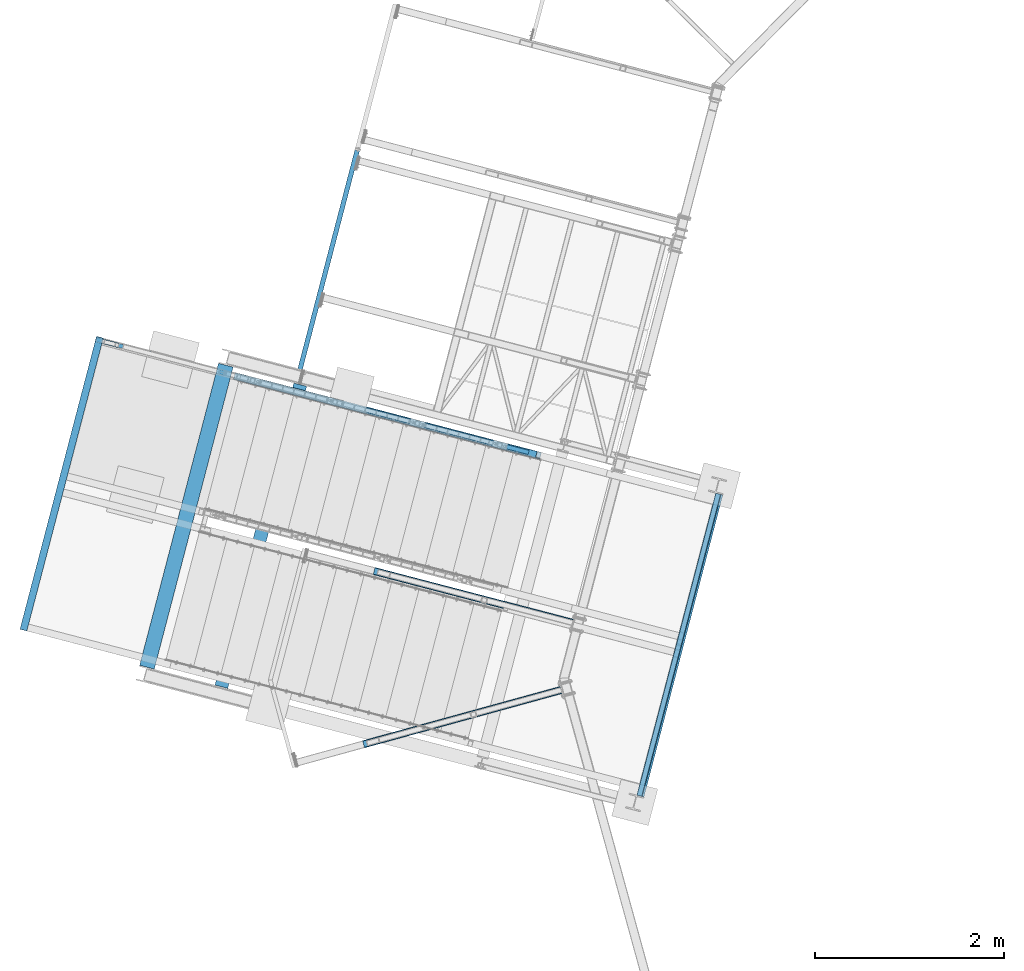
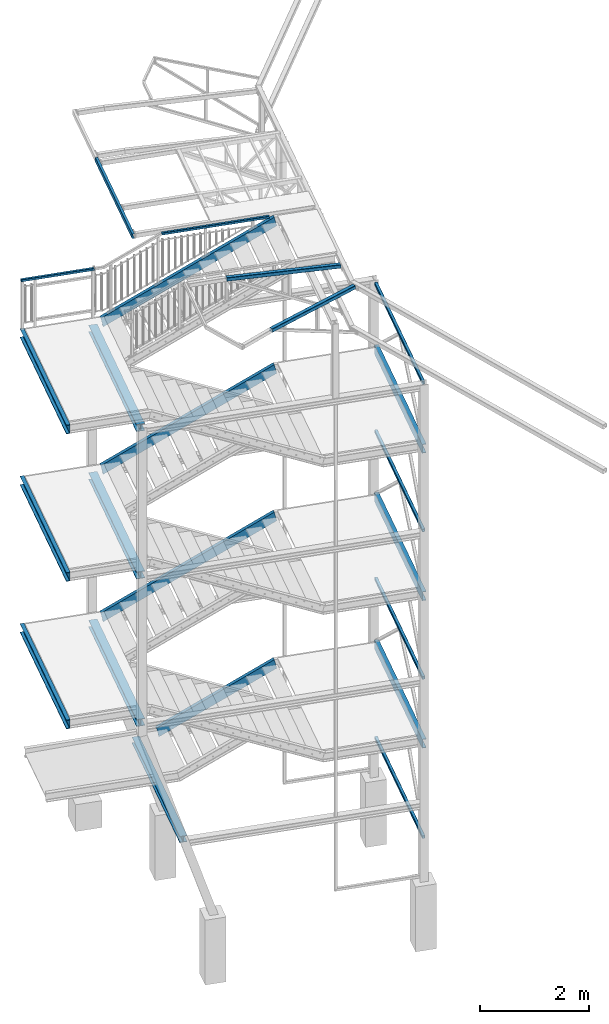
# One storey, part 12 of 169: 19 beams, 4 members, 23 elements without a shape of their own.
"""IFC2X3 building model written with IfcOpenShell, lengths in millimetres."""

from ifc_helpers import new_model, si_unit, frame, origin_with_axes, origin_2d_with_axis, place, context, subcontext, project, spatial, hollow_rectangle, i_section, u_section, extrude, clip, halfspace, material, type_object, element, aggregate, save


model = new_model("IFC2X3")

# Units and contexts
model_context = context("Model", 3, precision=1e-05, world=origin_with_axes())
body_context = subcontext(model_context, "Body", "Model", "MODEL_VIEW")
ifc_project = project(units=[si_unit("LENGTHUNIT", "METRE", prefix="MILLI"), si_unit("AREAUNIT", "SQUARE_METRE"), si_unit("VOLUMEUNIT", "CUBIC_METRE"), si_unit("MASSUNIT", "GRAM", prefix="KILO"), si_unit("TIMEUNIT", "SECOND"), si_unit("PLANEANGLEUNIT", "RADIAN"), si_unit("SOLIDANGLEUNIT", "STERADIAN"), si_unit("THERMODYNAMICTEMPERATUREUNIT", "DEGREE_CELSIUS"), si_unit("LUMINOUSINTENSITYUNIT", "LUMEN")], contexts=[model_context])

# Site, building, storey
site_placement = place(None, origin_with_axes())
site = spatial("IfcSite", under=ifc_project, at=site_placement, Name="Undefined", CompositionType="ELEMENT")
building_placement = place(site_placement, origin_with_axes())
building = spatial("IfcBuilding", under=site, at=building_placement, Name="Undefined", CompositionType="ELEMENT")
storey_placement = place(building_placement, origin_with_axes())
storey = spatial("IfcBuildingStorey", under=building, at=storey_placement, Name="Undefined", CompositionType="ELEMENT", Elevation=0.0)

# Assembly, beam
assembly_1_placement = place(storey_placement, origin_with_axes())
assembly_1 = element("IfcElementAssembly", 1, at=assembly_1_placement, inside=storey, Name="Steel Assembly", AssemblyPlace="NOTDEFINED", PredefinedType="RIGID_FRAME")
ifc_material = material(Name="STEEL/S235")
beam_type_1 = type_object("IfcBeamType", Name="C100*50*3", PredefinedType="NOTDEFINED")
beam_1_placement = place(assembly_1_placement, frame((-26311.6106474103, 11212.2699357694, 13975.3759246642), z_axis=(8.00909999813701e-05, -0.000162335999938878, -0.999999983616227), x_axis=(-0.252628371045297, -0.967563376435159, 0.000136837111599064)))
beam_1 = element("IfcBeam", 2, at=beam_1_placement, type_object=beam_type_1, material=ifc_material, Name="BEAM", ObjectType="C100*50*3", context=body_context, shape_type="Clipping", body=[
    clip(extrude(u_section(Depth=100.0, FlangeWidth=50.0, WebThickness=3.0, FlangeThickness=3.0, FilletRadius=4.5, at=origin_2d_with_axis()), frame((2550.00000000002, 7.97273409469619e-14, 1.81892028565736e-12), z_axis=(-1.0, -3.46944695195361e-18, -1.38777878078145e-17), x_axis=(1.73472347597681e-18, -1.0, 0.0)), (0.0, 0.0, 1.0), 2540.0), halfspace(frame((10.0005617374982, -2.2373569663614e-09, -49.9999999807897), z_axis=(1.0, 0.0, 0.0), x_axis=(1.73472347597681e-18, -1.0, 0.0)), True)),
])
aggregate(assembly_1, [beam_1])

assembly_2_placement = place(storey_placement, origin_with_axes())
assembly_2 = element("IfcElementAssembly", 3, at=assembly_2_placement, inside=storey, Name="Steel Assembly", AssemblyPlace="NOTDEFINED", PredefinedType="RIGID_FRAME")
beam_type_2 = type_object("IfcBeamType", Name="RHS50*3", PredefinedType="NOTDEFINED")
beam_2_placement = place(assembly_2_placement, frame((-27724.9829739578, 8847.55325044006, 13454.9945164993), z_axis=(-0.252628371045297, -0.967563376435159, 0.000136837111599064), x_axis=(-0.967563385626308, 0.252628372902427, -1.72000000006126e-07)))
beam_2 = element("IfcBeam", 4, at=beam_2_placement, type_object=beam_type_2, material=ifc_material, Name="PORĘCZ", ObjectType="RHS50*3", context=body_context, shape_type="SweptSolid", body=[
    extrude(hollow_rectangle(XDim=50.0, YDim=50.0, WallThickness=3.0, InnerFilletRadius=3.0, OuterFilletRadius=6.0, at=origin_2d_with_axis()), frame((1389.99999637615, -1.81899882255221e-12, -2.99443803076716e-12), z_axis=(-1.0, -3.46944695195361e-18, -1.38777878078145e-17), x_axis=(1.73472347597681e-18, -1.0, 0.0)), (0.0, 0.0, 1.0), 1390.0),
])
aggregate(assembly_2, [beam_2])

assembly_3_placement = place(storey_placement, origin_with_axes())
assembly_3 = element("IfcElementAssembly", 5, at=assembly_3_placement, inside=storey, Name="Steel Assembly", AssemblyPlace="NOTDEFINED", PredefinedType="RIGID_FRAME")
beam_3_placement = place(assembly_3_placement, frame((-24502.9778835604, 8006.37358748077, 14004.9945112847), z_axis=(-0.252628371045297, -0.967563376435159, 0.000136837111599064), x_axis=(-0.967563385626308, 0.252628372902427, -1.72000000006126e-07)))
beam_3 = element("IfcBeam", 6, at=beam_3_placement, type_object=beam_type_2, material=ifc_material, Name="PORĘCZ", ObjectType="RHS50*3", context=body_context, shape_type="Clipping", body=[
    clip(extrude(hollow_rectangle(XDim=50.0, YDim=50.0, WallThickness=3.0, InnerFilletRadius=3.0, OuterFilletRadius=6.0, at=origin_2d_with_axis()), frame((2079.65023760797, 2.81845163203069e-17, -9.08616231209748e-13), z_axis=(-1.0, -3.46944695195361e-18, -1.38777878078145e-17), x_axis=(1.73472347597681e-18, -1.0, 0.0)), (0.0, 0.0, 1.0), 2079.65), halfspace(frame((2054.90170139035, -25.0000000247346, 3.78448348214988e-07), z_axis=(-0.973248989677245, -0.22975291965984, 5.59252465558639e-10), x_axis=(-2.54700353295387e-10, 0.0, -1.0)), True)),
])
aggregate(assembly_3, [beam_3])

assembly_4_placement = place(storey_placement, origin_with_axes())
assembly_4 = element("IfcElementAssembly", 7, at=assembly_4_placement, inside=storey, Name="Steel Assembly", AssemblyPlace="NOTDEFINED", PredefinedType="RIGID_FRAME")
beam_type_3 = type_object("IfcBeamType", Name="SHS80*4", PredefinedType="NOTDEFINED")
beam_4_placement = place(assembly_4_placement, frame((-24129.6811552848, 5503.80142547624, 13839.5068892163), z_axis=(-0.048140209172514, -0.0130893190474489, -0.998754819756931), x_axis=(-0.96304141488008, -0.26469310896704, 0.0498877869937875)))
beam_4 = element("IfcBeam", 8, at=beam_4_placement, type_object=beam_type_3, material=ifc_material, Name="BEAM", ObjectType="SHS80*4", context=body_context, shape_type="Clipping", body=[
    clip(clip(extrude(hollow_rectangle(XDim=80.0, YDim=80.0, WallThickness=4.0, InnerFilletRadius=4.0, OuterFilletRadius=8.0, at=origin_2d_with_axis()), frame((2246.7216472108, -1.03544801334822e-14, -1.80339964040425e-12), z_axis=(-1.0, -3.46944695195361e-18, -1.38777878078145e-17), x_axis=(1.73472347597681e-18, -1.0, 0.0)), (0.0, 0.0, 1.0), 2261.8), halfspace(frame((2201.43447402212, 0.000261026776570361, -40.0002591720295), z_axis=(-0.999688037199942, 1.61544689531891e-07, -0.0249765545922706), x_axis=(-1.25063525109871e-09, 0.999999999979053, 6.47253026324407e-06)), True)), halfspace(frame((31.2090257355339, -39.9991890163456, 8.35643731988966e-08), z_axis=(0.998752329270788, -1.61183526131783e-08, 0.0499378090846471), x_axis=(-0.0499378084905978, 1.77374968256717e-08, 0.998752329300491)), True)),
])
aggregate(assembly_4, [beam_4])

assembly_5_placement = place(storey_placement, origin_with_axes())
assembly_5 = element("IfcElementAssembly", 9, at=assembly_5_placement, inside=storey, Name="Steel Assembly", AssemblyPlace="NOTDEFINED", PredefinedType="RIGID_FRAME")
beam_5_placement = place(assembly_5_placement, frame((-24010.5435136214, 6198.30021734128, 13839.5412630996), z_axis=(-0.0482380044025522, 0.0124535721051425, -0.998758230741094), x_axis=(-0.966360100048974, 0.252321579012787, 0.0498194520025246)))
beam_5 = element("IfcBeam", 10, at=beam_5_placement, type_object=beam_type_3, material=ifc_material, Name="BEAM", ObjectType="SHS80*4", context=body_context, shape_type="Clipping", body=[
    clip(clip(extrude(hollow_rectangle(XDim=80.0, YDim=80.0, WallThickness=4.0, InnerFilletRadius=4.0, OuterFilletRadius=8.0, at=origin_2d_with_axis()), frame((2244.92368183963, -1.6945622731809e-13, 0.0), z_axis=(-1.0, -3.46944695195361e-18, -1.38777878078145e-17), x_axis=(1.73472347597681e-18, -1.0, 0.0)), (0.0, 0.0, 1.0), 2258.26), halfspace(frame((2201.43447402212, 0.000261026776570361, -40.0002591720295), z_axis=(-0.999688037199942, 1.61544689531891e-07, -0.0249765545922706), x_axis=(-1.25063525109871e-09, 0.999999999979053, 6.47253026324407e-06)), True)), halfspace(frame((31.1545550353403, -39.9991890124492, 5.77347236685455e-08), z_axis=(0.998752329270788, -1.61183526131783e-08, 0.0499378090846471), x_axis=(-0.0499378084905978, 1.77374968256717e-08, 0.998752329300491)), True)),
])
aggregate(assembly_5, [beam_5])

# Assembly, member
assembly_6_placement = place(storey_placement, origin_with_axes())
assembly_6 = element("IfcElementAssembly", 11, at=assembly_6_placement, inside=storey, Name="Steel Assembly", AssemblyPlace="NOTDEFINED", PredefinedType="RIGID_FRAME")
member_type = type_object("IfcMemberType", Name="UPN200", PredefinedType="NOTDEFINED")
member_1_placement = place(assembly_6_placement, frame((-24378.1440380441, 7971.19843413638, 13910.6530511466), z_axis=(-0.432715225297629, 0.11294923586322, 0.894427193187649), x_axis=(-0.8654304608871, 0.225898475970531, -0.447213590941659)))
member_1 = element("IfcMember", 12, at=member_1_placement, type_object=member_type, material=ifc_material, Name="BELKA", ObjectType="UPN200", context=body_context, shape_type="Clipping", body=[
    clip(clip(extrude(u_section(Depth=200.0, FlangeWidth=75.0, WebThickness=8.5, FlangeThickness=11.5, FilletRadius=11.5, EdgeRadius=6.0, at=origin_2d_with_axis()), frame((3879.22163562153, 2.10410287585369e-12, -3.42263874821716e-12), z_axis=(-1.0, -3.46944695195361e-18, -1.38777878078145e-17), x_axis=(1.73472347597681e-18, -1.0, 0.0)), (0.0, 0.0, 1.0), 4021.72), halfspace(frame((3689.51216616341, 2.91399146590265e-07, 100.000000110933), z_axis=(0.973248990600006, 4.16118517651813e-10, 0.229752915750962), x_axis=(0.0, 1.0, 0.0)), False)), halfspace(frame((3.32713170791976e-06, -37.5000000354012, 100.000000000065), z_axis=(-0.973248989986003, -3.54065919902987e-15, -0.229752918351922), x_axis=(1.73472347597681e-18, -1.0, 0.0)), False)),
])
aggregate(assembly_6, [member_1])

assembly_7_placement = place(storey_placement, origin_with_axes())
assembly_7 = element("IfcElementAssembly", 13, at=assembly_7_placement, inside=storey, Name="Steel Assembly", AssemblyPlace="NOTDEFINED", PredefinedType="RIGID_FRAME")
member_2_placement = place(assembly_7_placement, frame((-24378.2581154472, 7970.76151918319, 10610.6530820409), z_axis=(-0.432715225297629, 0.11294923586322, 0.894427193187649), x_axis=(-0.8654304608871, 0.225898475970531, -0.447213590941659)))
member_2 = element("IfcMember", 14, at=member_2_placement, type_object=member_type, material=ifc_material, Name="BELKA", ObjectType="UPN200", context=body_context, shape_type="Clipping", body=[
    clip(clip(extrude(u_section(Depth=200.0, FlangeWidth=75.0, WebThickness=8.5, FlangeThickness=11.5, FilletRadius=11.5, EdgeRadius=6.0, at=origin_2d_with_axis()), frame((3879.22163562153, 2.10410287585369e-12, -3.42263874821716e-12), z_axis=(-1.0, -3.46944695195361e-18, -1.38777878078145e-17), x_axis=(1.73472347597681e-18, -1.0, 0.0)), (0.0, 0.0, 1.0), 4021.72), halfspace(frame((3689.51216616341, 2.91399146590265e-07, 100.000000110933), z_axis=(0.973248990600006, 4.16118517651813e-10, 0.229752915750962), x_axis=(0.0, 1.0, 0.0)), False)), halfspace(frame((3.32713170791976e-06, -37.5000000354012, 100.000000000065), z_axis=(-0.973248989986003, -3.54065919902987e-15, -0.229752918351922), x_axis=(1.73472347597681e-18, -1.0, 0.0)), False)),
])
aggregate(assembly_7, [member_2])

assembly_8_placement = place(storey_placement, origin_with_axes())
assembly_8 = element("IfcElementAssembly", 15, at=assembly_8_placement, inside=storey, Name="Steel Assembly", AssemblyPlace="NOTDEFINED", PredefinedType="RIGID_FRAME")
member_3_placement = place(assembly_8_placement, frame((-24378.3721928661, 7970.32460422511, 7310.65311294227), z_axis=(-0.432715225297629, 0.11294923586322, 0.894427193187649), x_axis=(-0.8654304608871, 0.225898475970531, -0.447213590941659)))
member_3 = element("IfcMember", 16, at=member_3_placement, type_object=member_type, material=ifc_material, Name="BELKA", ObjectType="UPN200", context=body_context, shape_type="Clipping", body=[
    clip(clip(extrude(u_section(Depth=200.0, FlangeWidth=75.0, WebThickness=8.5, FlangeThickness=11.5, FilletRadius=11.5, EdgeRadius=6.0, at=origin_2d_with_axis()), frame((3879.22163562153, 2.10410287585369e-12, -3.42263874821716e-12), z_axis=(-1.0, -3.46944695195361e-18, -1.38777878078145e-17), x_axis=(1.73472347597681e-18, -1.0, 0.0)), (0.0, 0.0, 1.0), 4021.72), halfspace(frame((3689.51216616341, 2.91399146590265e-07, 100.000000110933), z_axis=(0.973248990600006, 4.16118517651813e-10, 0.229752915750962), x_axis=(0.0, 1.0, 0.0)), False)), halfspace(frame((3.32713170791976e-06, -37.5000000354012, 100.000000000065), z_axis=(-0.973248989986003, -3.54065919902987e-15, -0.229752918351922), x_axis=(1.73472347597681e-18, -1.0, 0.0)), False)),
])
aggregate(assembly_8, [member_3])

assembly_9_placement = place(storey_placement, origin_with_axes())
assembly_9 = element("IfcElementAssembly", 17, at=assembly_9_placement, inside=storey, Name="Steel Assembly", AssemblyPlace="NOTDEFINED", PredefinedType="RIGID_FRAME")
member_4_placement = place(assembly_9_placement, frame((-24378.4862702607, 7969.88768928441, 4010.65314384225), z_axis=(-0.432715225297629, 0.11294923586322, 0.894427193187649), x_axis=(-0.8654304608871, 0.225898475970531, -0.447213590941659)))
member_4 = element("IfcMember", 18, at=member_4_placement, type_object=member_type, material=ifc_material, Name="BELKA", ObjectType="UPN200", context=body_context, shape_type="Clipping", body=[
    clip(clip(extrude(u_section(Depth=200.0, FlangeWidth=75.0, WebThickness=8.5, FlangeThickness=11.5, FilletRadius=11.5, EdgeRadius=6.0, at=origin_2d_with_axis()), frame((2694.1056048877, 4.10313018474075e-13, 0.0), z_axis=(-1.0, -3.46944695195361e-18, -1.38777878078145e-17), x_axis=(1.73472347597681e-18, -1.0, 0.0)), (0.0, 0.0, 1.0), 2836.6), halfspace(frame((2504.39613534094, 1.58081775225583e-07, 100.000000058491), z_axis=(0.973248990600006, 4.16118517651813e-10, 0.229752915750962), x_axis=(0.0, 1.0, 0.0)), False)), halfspace(frame((3.32713170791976e-06, -37.5000000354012, 100.000000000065), z_axis=(-0.973248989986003, -3.54065919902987e-15, -0.229752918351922), x_axis=(1.73472347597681e-18, -1.0, 0.0)), False)),
])
aggregate(assembly_9, [member_4])

# Assembly, beam
assembly_10_placement = place(storey_placement, origin_with_axes())
assembly_10 = element("IfcElementAssembly", 19, at=assembly_10_placement, inside=storey, Name="Steel Assembly", AssemblyPlace="NOTDEFINED", PredefinedType="RIGID_FRAME")
beam_type_4 = type_object("IfcBeamType", Name="SHS60*4", PredefinedType="NOTDEFINED")
beam_6_placement = place(assembly_10_placement, frame((-23331.7400450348, 4377.51297632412, 12070.4344603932), z_axis=(3.4552000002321e-05, 0.000132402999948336, 0.999999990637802), x_axis=(0.252628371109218, 0.967563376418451, -0.000136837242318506)))
beam_6 = element("IfcBeam", 20, at=beam_6_placement, type_object=beam_type_4, material=ifc_material, Name="COLUMN", ObjectType="SHS60*4", context=body_context, shape_type="SweptSolid", body=[
    extrude(hollow_rectangle(XDim=60.0, YDim=60.0, WallThickness=4.0, InnerFilletRadius=4.0, OuterFilletRadius=8.0, at=origin_2d_with_axis()), frame((3300.00000000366, -7.73080001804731e-15, -1.81889995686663e-12), z_axis=(-1.0, -3.46944695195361e-18, -1.38777878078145e-17), x_axis=(1.73472347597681e-18, -1.0, 0.0)), (0.0, 0.0, 1.0), 3300.0),
])
aggregate(assembly_10, [beam_6])

assembly_11_placement = place(storey_placement, origin_with_axes())
assembly_11 = element("IfcElementAssembly", 21, at=assembly_11_placement, inside=storey, Name="Steel Assembly", AssemblyPlace="NOTDEFINED", PredefinedType="RIGID_FRAME")
beam_7_placement = place(assembly_11_placement, frame((-23331.8541224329, 4377.07606137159, 8770.43449128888), z_axis=(3.4552000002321e-05, 0.000132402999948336, 0.999999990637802), x_axis=(0.252628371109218, 0.967563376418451, -0.000136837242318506)))
beam_7 = element("IfcBeam", 22, at=beam_7_placement, type_object=beam_type_4, material=ifc_material, Name="COLUMN", ObjectType="SHS60*4", context=body_context, shape_type="SweptSolid", body=[
    extrude(hollow_rectangle(XDim=60.0, YDim=60.0, WallThickness=4.0, InnerFilletRadius=4.0, OuterFilletRadius=8.0, at=origin_2d_with_axis()), frame((3300.00000000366, -7.73080001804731e-15, -1.81889995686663e-12), z_axis=(-1.0, -3.46944695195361e-18, -1.38777878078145e-17), x_axis=(1.73472347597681e-18, -1.0, 0.0)), (0.0, 0.0, 1.0), 3300.0),
])
aggregate(assembly_11, [beam_7])

assembly_12_placement = place(storey_placement, origin_with_axes())
assembly_12 = element("IfcElementAssembly", 23, at=assembly_12_placement, inside=storey, Name="Steel Assembly", AssemblyPlace="NOTDEFINED", PredefinedType="RIGID_FRAME")
beam_8_placement = place(assembly_12_placement, frame((-23331.968199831, 4376.63914641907, 5470.4345221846), z_axis=(3.4552000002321e-05, 0.000132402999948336, 0.999999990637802), x_axis=(0.252628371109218, 0.967563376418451, -0.000136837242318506)))
beam_8 = element("IfcBeam", 24, at=beam_8_placement, type_object=beam_type_4, material=ifc_material, Name="COLUMN", ObjectType="SHS60*4", context=body_context, shape_type="SweptSolid", body=[
    extrude(hollow_rectangle(XDim=60.0, YDim=60.0, WallThickness=4.0, InnerFilletRadius=4.0, OuterFilletRadius=8.0, at=origin_2d_with_axis()), frame((3300.00000000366, -7.73080001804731e-15, -1.81889995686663e-12), z_axis=(-1.0, -3.46944695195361e-18, -1.38777878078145e-17), x_axis=(1.73472347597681e-18, -1.0, 0.0)), (0.0, 0.0, 1.0), 3300.0),
])
aggregate(assembly_12, [beam_8])

assembly_13_placement = place(storey_placement, origin_with_axes())
assembly_13 = element("IfcElementAssembly", 25, at=assembly_13_placement, inside=storey, Name="Steel Assembly", AssemblyPlace="NOTDEFINED", PredefinedType="RIGID_FRAME")
beam_9_placement = place(assembly_13_placement, frame((-23332.0912651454, 4376.16780786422, 1910.43455551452), z_axis=(3.4552000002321e-05, 0.000132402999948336, 0.999999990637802), x_axis=(0.252628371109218, 0.967563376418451, -0.000136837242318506)))
beam_9 = element("IfcBeam", 26, at=beam_9_placement, type_object=beam_type_4, material=ifc_material, Name="COLUMN", ObjectType="SHS60*4", context=body_context, shape_type="SweptSolid", body=[
    extrude(hollow_rectangle(XDim=60.0, YDim=60.0, WallThickness=4.0, InnerFilletRadius=4.0, OuterFilletRadius=8.0, at=origin_2d_with_axis()), frame((3300.00000000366, -7.73080001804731e-15, -1.81889995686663e-12), z_axis=(-1.0, -3.46944695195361e-18, -1.38777878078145e-17), x_axis=(1.73472347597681e-18, -1.0, 0.0)), (0.0, 0.0, 1.0), 3300.0),
])
aggregate(assembly_13, [beam_9])

assembly_14_placement = place(storey_placement, origin_with_axes())
assembly_14 = element("IfcElementAssembly", 27, at=assembly_14_placement, inside=storey, Name="Steel Assembly", AssemblyPlace="NOTDEFINED", PredefinedType="RIGID_FRAME")
beam_type_5 = type_object("IfcBeamType", Name="UPN200", PredefinedType="NOTDEFINED")
beam_10_placement = place(assembly_14_placement, frame((-29034.4877459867, 9225.46458619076, 12249.9897384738), z_axis=(3.4552000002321e-05, 0.000132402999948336, 0.999999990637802), x_axis=(-0.252628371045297, -0.967563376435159, 0.000136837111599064)))
beam_10 = element("IfcBeam", 28, at=beam_10_placement, type_object=beam_type_5, material=ifc_material, Name="BELKA", ObjectType="UPN200", context=body_context, shape_type="SweptSolid", body=[
    extrude(u_section(Depth=200.0, FlangeWidth=75.0, WebThickness=8.5, FlangeThickness=11.5, FilletRadius=11.5, EdgeRadius=6.0, at=origin_2d_with_axis()), frame((3200.0000000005, -9.6314407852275e-14, 0.0), z_axis=(-1.0, -3.46944695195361e-18, -1.38777878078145e-17), x_axis=(1.73472347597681e-18, -1.0, 0.0)), (0.0, 0.0, 1.0), 3200.0),
])
aggregate(assembly_14, [beam_10])

assembly_15_placement = place(storey_placement, origin_with_axes())
assembly_15 = element("IfcElementAssembly", 29, at=assembly_15_placement, inside=storey, Name="Steel Assembly", AssemblyPlace="NOTDEFINED", PredefinedType="RIGID_FRAME")
beam_11_placement = place(assembly_15_placement, frame((-29034.6018233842, 9225.0276712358, 8949.98976936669), z_axis=(3.4552000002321e-05, 0.000132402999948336, 0.999999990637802), x_axis=(-0.252628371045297, -0.967563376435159, 0.000136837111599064)))
beam_11 = element("IfcBeam", 30, at=beam_11_placement, type_object=beam_type_5, material=ifc_material, Name="BELKA", ObjectType="UPN200", context=body_context, shape_type="SweptSolid", body=[
    extrude(u_section(Depth=200.0, FlangeWidth=75.0, WebThickness=8.5, FlangeThickness=11.5, FilletRadius=11.5, EdgeRadius=6.0, at=origin_2d_with_axis()), frame((3200.0000000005, -9.6314407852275e-14, 0.0), z_axis=(-1.0, -3.46944695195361e-18, -1.38777878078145e-17), x_axis=(1.73472347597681e-18, -1.0, 0.0)), (0.0, 0.0, 1.0), 3200.0),
])
aggregate(assembly_15, [beam_11])

assembly_16_placement = place(storey_placement, origin_with_axes())
assembly_16 = element("IfcElementAssembly", 31, at=assembly_16_placement, inside=storey, Name="Steel Assembly", AssemblyPlace="NOTDEFINED", PredefinedType="RIGID_FRAME")
beam_12_placement = place(assembly_16_placement, frame((-29034.7159007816, 9224.59075628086, 5649.9898002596), z_axis=(3.4552000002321e-05, 0.000132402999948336, 0.999999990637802), x_axis=(-0.252628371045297, -0.967563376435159, 0.000136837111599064)))
beam_12 = element("IfcBeam", 32, at=beam_12_placement, type_object=beam_type_5, material=ifc_material, Name="BELKA", ObjectType="UPN200", context=body_context, shape_type="SweptSolid", body=[
    extrude(u_section(Depth=200.0, FlangeWidth=75.0, WebThickness=8.5, FlangeThickness=11.5, FilletRadius=11.5, EdgeRadius=6.0, at=origin_2d_with_axis()), frame((3200.0000000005, -9.6314407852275e-14, 0.0), z_axis=(-1.0, -3.46944695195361e-18, -1.38777878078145e-17), x_axis=(1.73472347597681e-18, -1.0, 0.0)), (0.0, 0.0, 1.0), 3200.0),
])
aggregate(assembly_16, [beam_12])

assembly_17_placement = place(storey_placement, origin_with_axes())
assembly_17 = element("IfcElementAssembly", 33, at=assembly_17_placement, inside=storey, Name="Steel Assembly", AssemblyPlace="NOTDEFINED", PredefinedType="RIGID_FRAME")
beam_type_6 = type_object("IfcBeamType", Name="HEB160", PredefinedType="NOTDEFINED")
beam_13_placement = place(assembly_17_placement, frame((-27703.5574369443, 8929.61276522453, 12069.9828982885), z_axis=(3.4552000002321e-05, 0.000132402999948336, 0.999999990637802), x_axis=(-0.252628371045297, -0.967563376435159, 0.000136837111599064)))
beam_13 = element("IfcBeam", 34, at=beam_13_placement, type_object=beam_type_6, material=ifc_material, Name="COLUMN", ObjectType="HEB160", context=body_context, shape_type="SweptSolid", body=[
    extrude(i_section(OverallWidth=160.0, OverallDepth=160.0, WebThickness=8.0, FlangeThickness=13.0, FilletRadius=15.0, at=origin_2d_with_axis()), frame((3300.00000000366, -7.73080001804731e-15, -1.81889995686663e-12), z_axis=(-1.0, -3.46944695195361e-18, -1.38777878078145e-17), x_axis=(1.73472347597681e-18, -1.0, 0.0)), (0.0, 0.0, 1.0), 3300.0),
])
aggregate(assembly_17, [beam_13])

assembly_18_placement = place(storey_placement, origin_with_axes())
assembly_18 = element("IfcElementAssembly", 35, at=assembly_18_placement, inside=storey, Name="Steel Assembly", AssemblyPlace="NOTDEFINED", PredefinedType="RIGID_FRAME")
beam_14_placement = place(assembly_18_placement, frame((-27703.6715143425, 8929.175850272, 8769.98292918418), z_axis=(3.4552000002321e-05, 0.000132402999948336, 0.999999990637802), x_axis=(-0.252628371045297, -0.967563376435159, 0.000136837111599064)))
beam_14 = element("IfcBeam", 36, at=beam_14_placement, type_object=beam_type_6, material=ifc_material, Name="COLUMN", ObjectType="HEB160", context=body_context, shape_type="SweptSolid", body=[
    extrude(i_section(OverallWidth=160.0, OverallDepth=160.0, WebThickness=8.0, FlangeThickness=13.0, FilletRadius=15.0, at=origin_2d_with_axis()), frame((3300.00000000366, -7.73080001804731e-15, -1.81889995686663e-12), z_axis=(-1.0, -3.46944695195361e-18, -1.38777878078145e-17), x_axis=(1.73472347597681e-18, -1.0, 0.0)), (0.0, 0.0, 1.0), 3300.0),
])
aggregate(assembly_18, [beam_14])

assembly_19_placement = place(storey_placement, origin_with_axes())
assembly_19 = element("IfcElementAssembly", 37, at=assembly_19_placement, inside=storey, Name="Steel Assembly", AssemblyPlace="NOTDEFINED", PredefinedType="RIGID_FRAME")
beam_15_placement = place(assembly_19_placement, frame((-27703.7855917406, 8928.73893531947, 5469.9829600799), z_axis=(3.4552000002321e-05, 0.000132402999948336, 0.999999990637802), x_axis=(-0.252628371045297, -0.967563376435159, 0.000136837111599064)))
beam_15 = element("IfcBeam", 38, at=beam_15_placement, type_object=beam_type_6, material=ifc_material, Name="COLUMN", ObjectType="HEB160", context=body_context, shape_type="SweptSolid", body=[
    extrude(i_section(OverallWidth=160.0, OverallDepth=160.0, WebThickness=8.0, FlangeThickness=13.0, FilletRadius=15.0, at=origin_2d_with_axis()), frame((3300.00000000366, -7.73080001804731e-15, -1.81889995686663e-12), z_axis=(-1.0, -3.46944695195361e-18, -1.38777878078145e-17), x_axis=(1.73472347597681e-18, -1.0, 0.0)), (0.0, 0.0, 1.0), 3300.0),
])
aggregate(assembly_19, [beam_15])

assembly_20_placement = place(storey_placement, origin_with_axes())
assembly_20 = element("IfcElementAssembly", 39, at=assembly_20_placement, inside=storey, Name="Steel Assembly", AssemblyPlace="NOTDEFINED", PredefinedType="RIGID_FRAME")
beam_type_7 = type_object("IfcBeamType", Name="HEB140", PredefinedType="NOTDEFINED")
beam_16_placement = place(assembly_20_placement, frame((-26917.0812215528, 8722.94206653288, 2709.98298592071), z_axis=(3.4552000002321e-05, 0.000132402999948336, 0.999999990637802), x_axis=(-0.252628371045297, -0.967563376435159, 0.000136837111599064)))
beam_16 = element("IfcBeam", 40, at=beam_16_placement, type_object=beam_type_7, material=ifc_material, Name="COLUMN", ObjectType="HEB140", context=body_context, shape_type="SweptSolid", body=[
    extrude(i_section(OverallWidth=140.0, OverallDepth=140.0, WebThickness=7.0, FlangeThickness=12.0, FilletRadius=12.0, at=origin_2d_with_axis()), frame((3300.00000000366, -7.73080001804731e-15, -1.81889995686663e-12), z_axis=(-1.0, -3.46944695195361e-18, -1.38777878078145e-17), x_axis=(1.73472347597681e-18, -1.0, 0.0)), (0.0, 0.0, 1.0), 3300.0),
])
aggregate(assembly_20, [beam_16])

assembly_21_placement = place(storey_placement, origin_with_axes())
assembly_21 = element("IfcElementAssembly", 41, at=assembly_21_placement, inside=storey, Name="Steel Assembly", AssemblyPlace="NOTDEFINED", PredefinedType="RIGID_FRAME")
beam_type_8 = type_object("IfcBeamType", Name="UPE200", PredefinedType="NOTDEFINED")
beam_17_placement = place(assembly_21_placement, frame((-23322.1152274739, 4374.79206684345, 10600.4344741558), z_axis=(3.4552000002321e-05, 0.000132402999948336, 0.999999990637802), x_axis=(0.252628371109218, 0.967563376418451, -0.000136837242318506)))
beam_17 = element("IfcBeam", 42, at=beam_17_placement, type_object=beam_type_8, material=ifc_material, Name="COLUMN", ObjectType="UPE200", context=body_context, shape_type="SweptSolid", body=[
    extrude(u_section(Depth=200.0, FlangeWidth=80.0, WebThickness=7.5, FlangeThickness=11.0, FilletRadius=12.0, EdgeRadius=3.0, at=origin_2d_with_axis()), frame((3300.00000000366, -7.73080001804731e-15, -1.81889995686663e-12), z_axis=(-1.0, -3.46944695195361e-18, -1.38777878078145e-17), x_axis=(1.73472347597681e-18, -1.0, 0.0)), (0.0, 0.0, 1.0), 3300.0),
])
aggregate(assembly_21, [beam_17])

assembly_22_placement = place(storey_placement, origin_with_axes())
assembly_22 = element("IfcElementAssembly", 43, at=assembly_22_placement, inside=storey, Name="Steel Assembly", AssemblyPlace="NOTDEFINED", PredefinedType="RIGID_FRAME")
beam_18_placement = place(assembly_22_placement, frame((-23322.229304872, 4374.35515189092, 7300.43450505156), z_axis=(3.4552000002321e-05, 0.000132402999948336, 0.999999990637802), x_axis=(0.252628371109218, 0.967563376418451, -0.000136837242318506)))
beam_18 = element("IfcBeam", 44, at=beam_18_placement, type_object=beam_type_8, material=ifc_material, Name="COLUMN", ObjectType="UPE200", context=body_context, shape_type="SweptSolid", body=[
    extrude(u_section(Depth=200.0, FlangeWidth=80.0, WebThickness=7.5, FlangeThickness=11.0, FilletRadius=12.0, EdgeRadius=3.0, at=origin_2d_with_axis()), frame((3300.00000000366, -7.73080001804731e-15, -1.81889995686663e-12), z_axis=(-1.0, -3.46944695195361e-18, -1.38777878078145e-17), x_axis=(1.73472347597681e-18, -1.0, 0.0)), (0.0, 0.0, 1.0), 3300.0),
])
aggregate(assembly_22, [beam_18])

assembly_23_placement = place(storey_placement, origin_with_axes())
assembly_23 = element("IfcElementAssembly", 45, at=assembly_23_placement, inside=storey, Name="Steel Assembly", AssemblyPlace="NOTDEFINED", PredefinedType="RIGID_FRAME")
beam_19_placement = place(assembly_23_placement, frame((-23322.3433822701, 4373.9182369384, 4000.43453594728), z_axis=(3.4552000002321e-05, 0.000132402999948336, 0.999999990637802), x_axis=(0.252628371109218, 0.967563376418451, -0.000136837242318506)))
beam_19 = element("IfcBeam", 46, at=beam_19_placement, type_object=beam_type_8, material=ifc_material, Name="COLUMN", ObjectType="UPE200", context=body_context, shape_type="SweptSolid", body=[
    extrude(u_section(Depth=200.0, FlangeWidth=80.0, WebThickness=7.5, FlangeThickness=11.0, FilletRadius=12.0, EdgeRadius=3.0, at=origin_2d_with_axis()), frame((3300.00000000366, -7.73080001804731e-15, -1.81889995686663e-12), z_axis=(-1.0, -3.46944695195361e-18, -1.38777878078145e-17), x_axis=(1.73472347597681e-18, -1.0, 0.0)), (0.0, 0.0, 1.0), 3300.0),
])
aggregate(assembly_23, [beam_19])

save(model, "model.ifc")
